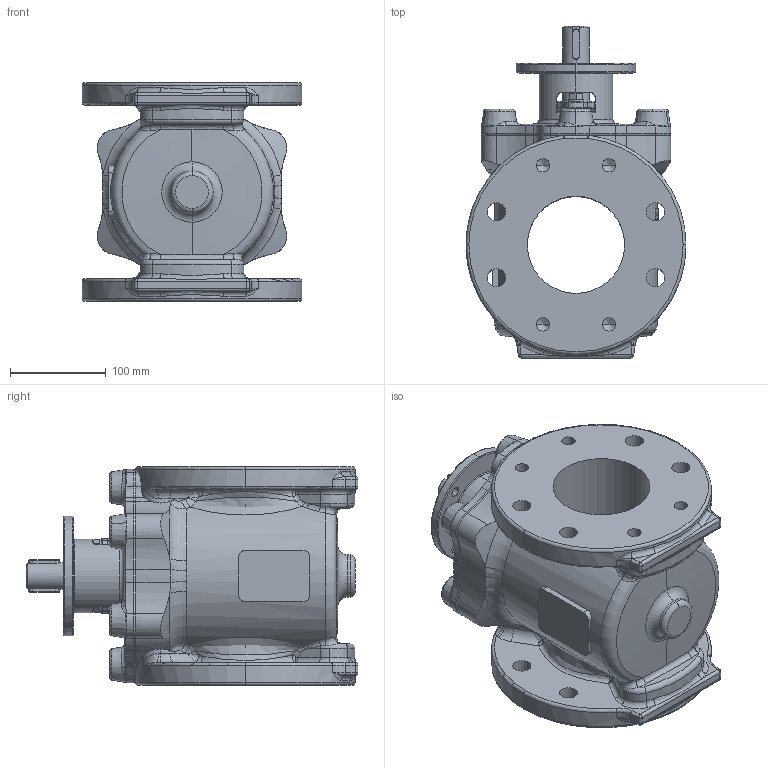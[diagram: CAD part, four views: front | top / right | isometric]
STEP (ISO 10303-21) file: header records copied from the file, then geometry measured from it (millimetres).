
FILE_DESCRIPTION (( 'STEP AP203' ), '1' );
FILE_NAME ('O_764_01_DN100_1XXXXXX000_REV02.step', '2021-02-03T08:55:19', ( '' ), ( '' ), 'SwSTEP 2.0', 'SolidWorks 2019', '' );
FILE_SCHEMA (( 'CONFIG_CONTROL_DESIGN' ));
Length unit declared in the file: millimetre
Products named in the file (1): O_764_01_DN100_1XXXXXX000_REV02
Bounding box: 230 x 347 x 229 mm (x, y, z)
Volume: 6408628 mm3; surface area: 448225.7 mm2
Topology: 1 solids, 1 shells, 729 faces, 1811 edges, 1058 vertices
Faces by surface type: cylinder 234, torus 166, plane 131, bspline 106, cone 78, sphere 14
Entity records: 30524 total; most frequent: CARTESIAN_POINT 13922, ORIENTED_EDGE 3530, DIRECTION 3515, EDGE_CURVE 1765, AXIS2_PLACEMENT_3D 1530, VERTEX_POINT 1058, CIRCLE 906, EDGE_LOOP 795
